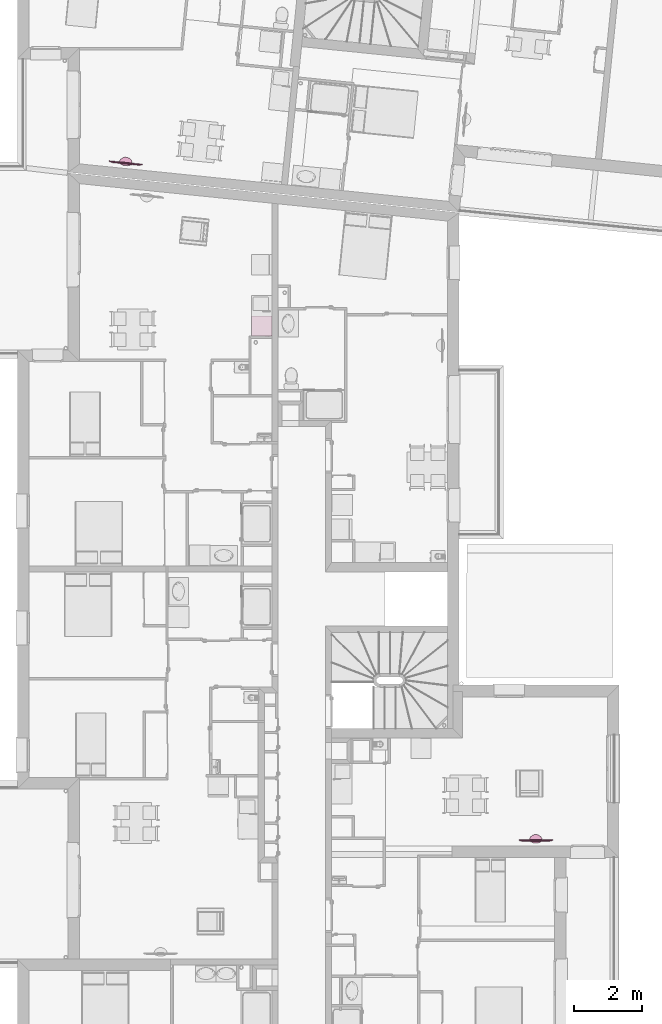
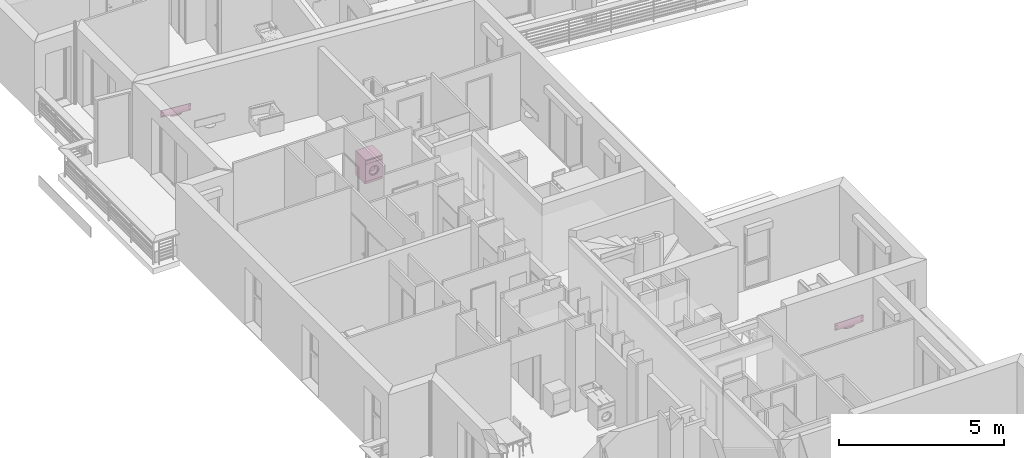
# One storey, part 124 of 164: 3 furnishings.
"""IFC2X3 building model written with IfcOpenShell, lengths in millimetres."""

from ifc_helpers import new_model, entity, si_unit, converted_unit, derived_unit, money_unit, direction, frame, origin_with_axes, place, context, subcontext, project, spatial, open_shell, faceted_brep, surface_model, source, transform, mapped, type_object, element, save


model = new_model("IFC2X3")

# Units and contexts
model_context = context("Model", 3, precision=0.01, world=origin_with_axes(), true_north=direction((0.0, 1.0)))
body_context = subcontext(model_context, "Body", "Model", "MODEL_VIEW")
ifc_project = project(units=[si_unit("LENGTHUNIT", "METRE", prefix="MILLI"), si_unit("AREAUNIT", "SQUARE_METRE"), si_unit("VOLUMEUNIT", "CUBIC_METRE"), converted_unit("PLANEANGLEUNIT", "DEGREE", entity("IfcPlaneAngleMeasure", 0.0174532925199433), si_unit("PLANEANGLEUNIT", "RADIAN"), dimensions=[0, 0, 0, 0, 0, 0, 0]), money_unit("USD"), converted_unit("TIMEUNIT", "Year", entity("IfcTimeMeasure", 31557600.0), si_unit("TIMEUNIT", "SECOND"), dimensions=[0, 0, 1, 0, 0, 0, 0]), si_unit("MASSUNIT", "GRAM", prefix="KILO"), si_unit("THERMODYNAMICTEMPERATUREUNIT", "DEGREE_CELSIUS"), si_unit("LUMINOUSINTENSITYUNIT", "LUMEN"), si_unit("ENERGYUNIT", "JOULE", prefix="MEGA"), derived_unit("THERMALCONDUCTANCEUNIT", [(si_unit("POWERUNIT", "WATT"), 1), (si_unit("LENGTHUNIT", "METRE"), -1), (si_unit("THERMODYNAMICTEMPERATUREUNIT", "KELVIN"), -1)]), derived_unit("SPECIFICHEATCAPACITYUNIT", [(si_unit("ENERGYUNIT", "JOULE"), 1), (si_unit("MASSUNIT", "GRAM", prefix="KILO"), -1), (si_unit("THERMODYNAMICTEMPERATUREUNIT", "KELVIN"), -1)]), derived_unit("MASSDENSITYUNIT", [(si_unit("MASSUNIT", "GRAM", prefix="KILO"), 1), (si_unit("VOLUMEUNIT", "CUBIC_METRE"), -1)])], contexts=[model_context])

# Site, building, storey
site_placement = place(None, origin_with_axes())
site = spatial("IfcSite", under=ifc_project, at=site_placement, Name="Site", CompositionType="ELEMENT")
building_placement = place(site_placement, origin_with_axes())
building = spatial("IfcBuilding", under=site, at=building_placement, Name="Bâtiment", CompositionType="ELEMENT")
storey_placement = place(building_placement, frame((0.0, 0.0, 5750.0), z_axis=(0.0, 0.0, 1.0), x_axis=(1.0, 0.0, 0.0)))
storey = spatial("IfcBuildingStorey", under=building, at=storey_placement, Name="Etage1", CompositionType="ELEMENT", Elevation=5750.0)

# Furnishings
furnishing_element_type_1 = type_object("IfcFurnishingElementType", Name="Machine à laver")
shared_shape_1 = source(origin_with_axes(), body_context, "Body", "SurfaceModel", [
    faceted_brep([(0.0, 20.0, 100.0), (0.0, 0.0, 100.0), (-600.0, 0.0, 100.0), (-600.0, 20.0, 100.0), (0.0, 20.00000000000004, 740.0), (0.0, 0.0, 740.0), (-600.0, 0.0, 740.0), (-471.4285714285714, 0.0, 420.0000000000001), (-465.5872845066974, 0.0, 464.3689791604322), (-448.4614977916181, 0.0, 505.7142857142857), (-421.2183053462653, 0.0, 541.2183053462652), (-385.7142857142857, 0.0, 568.4614977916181), (-344.3689791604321, 0.0, 585.5872845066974), (-300.0000000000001, 0.0, 591.4285714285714), (-255.6310208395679, 0.0, 585.5872845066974), (-214.2857142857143, 0.0, 568.4614977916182), (-178.7816946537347, 0.0, 541.2183053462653), (-151.5385022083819, 0.0, 505.7142857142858), (-134.4127154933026, 0.0, 464.3689791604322), (-128.5714285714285, 0.0, 420.0000000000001), (-134.4127154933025, 0.0, 375.6310208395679), (-151.5385022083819, 0.0, 334.2857142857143), (-178.7816946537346, 0.0, 298.7816946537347), (-214.2857142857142, 0.0, 271.5385022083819), (-255.6310208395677, 0.0, 254.4127154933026), (-299.9999999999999, 0.0, 248.5714285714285), (-344.368979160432, 0.0, 254.4127154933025), (-385.7142857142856, 0.0, 271.5385022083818), (-421.2183053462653, 0.0, 298.7816946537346), (-448.4614977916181, 0.0, 334.2857142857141), (-465.5872845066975, 0.0, 375.6310208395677), (-600.0, 20.00000000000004, 740.0), (-471.4285714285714, 20.00000000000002, 420.0000000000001), (-465.5872845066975, 20.00000000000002, 375.6310208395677), (-448.4614977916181, 20.00000000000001, 334.2857142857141), (-421.2183053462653, 20.00000000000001, 298.7816946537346), (-385.7142857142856, 20.00000000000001, 271.5385022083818), (-344.368979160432, 20.00000000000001, 254.4127154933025), (-299.9999999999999, 20.00000000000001, 248.5714285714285), (-255.6310208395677, 20.00000000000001, 254.4127154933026), (-214.2857142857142, 20.00000000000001, 271.5385022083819), (-178.7816946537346, 20.00000000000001, 298.7816946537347), (-151.5385022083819, 20.00000000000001, 334.2857142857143), (-134.4127154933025, 20.00000000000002, 375.6310208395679), (-128.5714285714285, 20.00000000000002, 420.0000000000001), (-134.4127154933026, 20.00000000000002, 464.3689791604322), (-151.5385022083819, 20.00000000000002, 505.7142857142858), (-178.7816946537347, 20.00000000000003, 541.2183053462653), (-214.2857142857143, 20.00000000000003, 568.4614977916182), (-255.6310208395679, 20.00000000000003, 585.5872845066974), (-300.0000000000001, 20.00000000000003, 591.4285714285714), (-344.3689791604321, 20.00000000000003, 585.5872845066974), (-385.7142857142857, 20.00000000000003, 568.4614977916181), (-421.2183053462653, 20.00000000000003, 541.2183053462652), (-448.4614977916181, 20.00000000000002, 505.7142857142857), (-465.5872845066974, 20.00000000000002, 464.3689791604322)], [[[0, 1, 2, 3]], [[4, 5, 1, 0]], [[1, 5, 6, 2], [7, 8, 9, 10, 11, 12, 13, 14, 15, 16, 17, 18, 19, 20, 21, 22, 23, 24, 25, 26, 27, 28, 29, 30]], [[3, 2, 6, 31]], [[0, 3, 31, 4], [32, 33, 34, 35, 36, 37, 38, 39, 40, 41, 42, 43, 44, 45, 46, 47, 48, 49, 50, 51, 52, 53, 54, 55]], [[31, 6, 5, 4]], [[55, 8, 7, 32]], [[54, 9, 8, 55]], [[53, 10, 9, 54]], [[52, 11, 10, 53]], [[51, 12, 11, 52]], [[50, 13, 12, 51]], [[49, 14, 13, 50]], [[48, 15, 14, 49]], [[47, 16, 15, 48]], [[46, 17, 16, 47]], [[45, 18, 17, 46]], [[44, 19, 18, 45]], [[43, 20, 19, 44]], [[42, 21, 20, 43]], [[41, 22, 21, 42]], [[40, 23, 22, 41]], [[39, 24, 23, 40]], [[38, 25, 24, 39]], [[37, 26, 25, 38]], [[36, 27, 26, 37]], [[35, 28, 27, 36]], [[34, 29, 28, 35]], [[33, 30, 29, 34]], [[32, 7, 30, 33]]]),
    faceted_brep([(-471.4285714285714, 40.00000000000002, 420.0000000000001), (-471.4285714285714, 20.00000000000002, 420.0000000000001), (-465.5872845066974, 20.00000000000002, 464.3689791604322), (-465.5872845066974, 40.00000000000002, 464.3689791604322), (-465.5872845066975, 40.00000000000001, 375.6310208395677), (-465.5872845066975, 20.00000000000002, 375.6310208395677), (-448.4614977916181, 20.00000000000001, 334.2857142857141), (-421.2183053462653, 20.00000000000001, 298.7816946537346), (-385.7142857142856, 20.00000000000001, 271.5385022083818), (-344.368979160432, 20.00000000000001, 254.4127154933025), (-299.9999999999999, 20.00000000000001, 248.5714285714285), (-255.6310208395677, 20.00000000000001, 254.4127154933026), (-214.2857142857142, 20.00000000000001, 271.5385022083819), (-178.7816946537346, 20.00000000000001, 298.7816946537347), (-151.5385022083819, 20.00000000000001, 334.2857142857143), (-134.4127154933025, 20.00000000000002, 375.6310208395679), (-128.5714285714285, 20.00000000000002, 420.0000000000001), (-134.4127154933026, 20.00000000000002, 464.3689791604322), (-151.5385022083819, 20.00000000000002, 505.7142857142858), (-178.7816946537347, 20.00000000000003, 541.2183053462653), (-214.2857142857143, 20.00000000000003, 568.4614977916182), (-255.6310208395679, 20.00000000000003, 585.5872845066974), (-300.0000000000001, 20.00000000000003, 591.4285714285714), (-344.3689791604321, 20.00000000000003, 585.5872845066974), (-385.7142857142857, 20.00000000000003, 568.4614977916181), (-421.2183053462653, 20.00000000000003, 541.2183053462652), (-448.4614977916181, 20.00000000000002, 505.7142857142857), (-437.1428571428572, 20.00000000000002, 420.0000000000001), (-432.469827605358, 20.00000000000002, 455.4951833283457), (-418.7691982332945, 20.00000000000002, 488.5714285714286), (-396.9746442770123, 20.00000000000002, 516.9746442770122), (-368.5714285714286, 20.00000000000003, 538.7691982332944), (-335.4951833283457, 20.00000000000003, 552.469827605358), (-300.0000000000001, 20.00000000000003, 557.1428571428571), (-264.5048166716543, 20.00000000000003, 552.469827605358), (-231.4285714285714, 20.00000000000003, 538.7691982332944), (-203.0253557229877, 20.00000000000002, 516.9746442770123), (-181.2308017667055, 20.00000000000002, 488.5714285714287), (-167.530172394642, 20.00000000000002, 455.4951833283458), (-162.8571428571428, 20.00000000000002, 420.0000000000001), (-167.530172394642, 20.00000000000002, 384.5048166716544), (-181.2308017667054, 20.00000000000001, 351.4285714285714), (-203.0253557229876, 20.00000000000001, 323.0253557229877), (-231.4285714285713, 20.00000000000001, 301.2308017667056), (-264.5048166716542, 20.00000000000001, 287.530172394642), (-299.9999999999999, 20.00000000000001, 282.8571428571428), (-335.4951833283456, 20.00000000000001, 287.530172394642), (-368.5714285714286, 20.00000000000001, 301.2308017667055), (-396.9746442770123, 20.00000000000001, 323.0253557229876), (-418.7691982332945, 20.00000000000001, 351.4285714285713), (-432.469827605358, 20.00000000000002, 384.5048166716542), (-448.4614977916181, 40.00000000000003, 505.7142857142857), (-421.2183053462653, 40.00000000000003, 541.2183053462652), (-385.7142857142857, 40.00000000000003, 568.4614977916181), (-344.3689791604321, 40.00000000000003, 585.5872845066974), (-300.0000000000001, 40.00000000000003, 591.4285714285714), (-255.6310208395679, 40.00000000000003, 585.5872845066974), (-214.2857142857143, 40.00000000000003, 568.4614977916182), (-178.7816946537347, 40.00000000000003, 541.2183053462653), (-151.5385022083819, 40.00000000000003, 505.7142857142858), (-134.4127154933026, 40.00000000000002, 464.3689791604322), (-128.5714285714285, 40.00000000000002, 420.0000000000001), (-134.4127154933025, 40.00000000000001, 375.6310208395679), (-151.5385022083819, 40.00000000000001, 334.2857142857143), (-178.7816946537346, 40.00000000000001, 298.7816946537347), (-214.2857142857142, 40.00000000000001, 271.5385022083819), (-255.6310208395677, 40.00000000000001, 254.4127154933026), (-299.9999999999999, 40.00000000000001, 248.5714285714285), (-344.368979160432, 40.00000000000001, 254.4127154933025), (-385.7142857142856, 40.00000000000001, 271.5385022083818), (-421.2183053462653, 40.00000000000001, 298.7816946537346), (-448.4614977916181, 40.00000000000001, 334.2857142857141), (-437.1428571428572, 40.00000000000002, 420.0000000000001), (-432.469827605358, 40.00000000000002, 384.5048166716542), (-418.7691982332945, 40.00000000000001, 351.4285714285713), (-396.9746442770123, 40.00000000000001, 323.0253557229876), (-368.5714285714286, 40.00000000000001, 301.2308017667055), (-335.4951833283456, 40.00000000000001, 287.530172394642), (-299.9999999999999, 40.00000000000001, 282.8571428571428), (-264.5048166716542, 40.00000000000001, 287.530172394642), (-231.4285714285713, 40.00000000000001, 301.2308017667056), (-203.0253557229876, 40.00000000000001, 323.0253557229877), (-181.2308017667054, 40.00000000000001, 351.4285714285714), (-167.530172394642, 40.00000000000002, 384.5048166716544), (-162.8571428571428, 40.00000000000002, 420.0000000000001), (-167.530172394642, 40.00000000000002, 455.4951833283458), (-181.2308017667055, 40.00000000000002, 488.5714285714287), (-203.0253557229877, 40.00000000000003, 516.9746442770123), (-231.4285714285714, 40.00000000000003, 538.7691982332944), (-264.5048166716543, 40.00000000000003, 552.469827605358), (-300.0000000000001, 40.00000000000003, 557.1428571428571), (-335.4951833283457, 40.00000000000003, 552.469827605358), (-368.5714285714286, 40.00000000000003, 538.7691982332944), (-396.9746442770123, 40.00000000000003, 516.9746442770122), (-418.7691982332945, 40.00000000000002, 488.5714285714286), (-432.469827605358, 40.00000000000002, 455.4951833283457)], [[[0, 1, 2, 3]], [[4, 5, 1, 0]], [[1, 5, 6, 7, 8, 9, 10, 11, 12, 13, 14, 15, 16, 17, 18, 19, 20, 21, 22, 23, 24, 25, 26, 2], [27, 28, 29, 30, 31, 32, 33, 34, 35, 36, 37, 38, 39, 40, 41, 42, 43, 44, 45, 46, 47, 48, 49, 50]], [[3, 2, 26, 51]], [[0, 3, 51, 52, 53, 54, 55, 56, 57, 58, 59, 60, 61, 62, 63, 64, 65, 66, 67, 68, 69, 70, 71, 4], [72, 73, 74, 75, 76, 77, 78, 79, 80, 81, 82, 83, 84, 85, 86, 87, 88, 89, 90, 91, 92, 93, 94, 95]], [[71, 6, 5, 4]], [[70, 7, 6, 71]], [[69, 8, 7, 70]], [[68, 9, 8, 69]], [[67, 10, 9, 68]], [[66, 11, 10, 67]], [[65, 12, 11, 66]], [[64, 13, 12, 65]], [[63, 14, 13, 64]], [[62, 15, 14, 63]], [[61, 16, 15, 62]], [[60, 17, 16, 61]], [[59, 18, 17, 60]], [[58, 19, 18, 59]], [[57, 20, 19, 58]], [[56, 21, 20, 57]], [[55, 22, 21, 56]], [[54, 23, 22, 55]], [[53, 24, 23, 54]], [[52, 25, 24, 53]], [[51, 26, 25, 52]], [[95, 28, 27, 72]], [[94, 29, 28, 95]], [[93, 30, 29, 94]], [[92, 31, 30, 93]], [[91, 32, 31, 92]], [[90, 33, 32, 91]], [[89, 34, 33, 90]], [[88, 35, 34, 89]], [[87, 36, 35, 88]], [[86, 37, 36, 87]], [[85, 38, 37, 86]], [[84, 39, 38, 85]], [[83, 40, 39, 84]], [[82, 41, 40, 83]], [[81, 42, 41, 82]], [[80, 43, 42, 81]], [[79, 44, 43, 80]], [[78, 45, 44, 79]], [[77, 46, 45, 78]], [[76, 47, 46, 77]], [[75, 48, 47, 76]], [[74, 49, 48, 75]], [[73, 50, 49, 74]], [[72, 27, 50, 73]]]),
    surface_model("IfcShellBasedSurfaceModel", [(-264.5048166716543, 39.99999999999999, 552.469827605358), (-273.3786125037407, 140.0, 519.3523707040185), (-300.0, 140.0, 522.8571428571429), (-300.0, 39.99999999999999, 557.1428571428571), (-231.4285714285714, 39.99999999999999, 538.7691982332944), (-248.5714285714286, 140.0, 509.0768986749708), (-227.2690167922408, 140.0, 492.7309832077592), (-210.9231013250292, 140.0, 471.4285714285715), (-200.6476292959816, 140.0, 446.6213874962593), (-197.1428571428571, 140.0, 420.0000000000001), (-200.6476292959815, 140.0, 393.3786125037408), (-210.9231013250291, 140.0, 368.5714285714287), (-227.2690167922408, 140.0, 347.2690167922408), (-248.5714285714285, 140.0, 330.9231013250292), (-273.3786125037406, 140.0, 320.6476292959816), (-299.9999999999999, 140.0, 317.1428571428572), (-326.6213874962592, 140.0, 320.6476292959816), (-351.4285714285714, 140.0, 330.9231013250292), (-372.7309832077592, 140.0, 347.2690167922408), (-389.0768986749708, 140.0, 368.5714285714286), (-399.3523707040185, 140.0, 393.3786125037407), (-402.8571428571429, 140.0, 420.0), (-399.3523707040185, 140.0, 446.6213874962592), (-389.0768986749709, 140.0, 471.4285714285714), (-372.7309832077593, 140.0, 492.7309832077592), (-351.4285714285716, 140.0, 509.0768986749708), (-326.6213874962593, 140.0, 519.3523707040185), (-335.4951833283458, 39.99999999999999, 552.469827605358), (-203.0253557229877, 39.99999999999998, 516.9746442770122), (-181.2308017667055, 39.99999999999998, 488.5714285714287), (-167.5301723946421, 39.99999999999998, 455.4951833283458), (-162.8571428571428, 39.99999999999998, 420.0000000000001), (-167.530172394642, 39.99999999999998, 384.5048166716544), (-181.2308017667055, 39.99999999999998, 351.4285714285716), (-203.0253557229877, 39.99999999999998, 323.0253557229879), (-231.4285714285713, 39.99999999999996, 301.2308017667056), (-264.5048166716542, 39.99999999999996, 287.5301723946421), (-299.9999999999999, 39.99999999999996, 282.8571428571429), (-335.4951833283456, 39.99999999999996, 287.5301723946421), (-368.5714285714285, 39.99999999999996, 301.2308017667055), (-396.9746442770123, 39.99999999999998, 323.0253557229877), (-418.7691982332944, 39.99999999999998, 351.4285714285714), (-432.469827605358, 39.99999999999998, 384.5048166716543), (-437.1428571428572, 39.99999999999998, 419.9999999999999), (-432.469827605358, 39.99999999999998, 455.4951833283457), (-418.7691982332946, 39.99999999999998, 488.5714285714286), (-396.9746442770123, 39.99999999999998, 516.9746442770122), (-368.5714285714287, 39.99999999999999, 538.7691982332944)], [open_shell([[[0, 1, 2, 3]], [[4, 5, 1, 0]], [[2, 1, 5, 6, 7, 8, 9, 10, 11, 12, 13, 14, 15, 16, 17, 18, 19, 20, 21, 22, 23, 24, 25, 26]], [[3, 2, 26, 27]], [[28, 6, 5, 4]], [[29, 7, 6, 28]], [[30, 8, 7, 29]], [[31, 9, 8, 30]], [[32, 10, 9, 31]], [[33, 11, 10, 32]], [[34, 12, 11, 33]], [[35, 13, 12, 34]], [[36, 14, 13, 35]], [[37, 15, 14, 36]], [[38, 16, 15, 37]], [[39, 17, 16, 38]], [[40, 18, 17, 39]], [[41, 19, 18, 40]], [[42, 20, 19, 41]], [[43, 21, 20, 42]], [[44, 22, 21, 43]], [[45, 23, 22, 44]], [[46, 24, 23, 45]], [[47, 25, 24, 46]], [[27, 26, 25, 47]]])]),
    surface_model("IfcShellBasedSurfaceModel", [(0.0, 20.0, 100.0), (0.0, 600.0, 99.99999999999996), (0.0, 600.0, 870.0), (0.0, 20.00000000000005, 870.0)], [open_shell([[[0, 1, 2, 3]]])]),
    surface_model("IfcShellBasedSurfaceModel", [(-600.0, 19.99999999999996, 100.0), (-600.0, 599.9999999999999, 99.99999999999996), (-600.0, 599.9999999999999, 870.0), (-600.0, 20.00000000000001, 870.0)], [open_shell([[[0, 1, 2, 3]]])]),
    surface_model("IfcShellBasedSurfaceModel", [(0.0, 600.0, 100.0), (-600.0, 600.0, 100.0), (-600.0, 600.0, 870.0), (0.0, 600.0, 870.0)], [open_shell([[[0, 1, 2, 3]]])]),
    faceted_brep([(0.0, 20.0, 0.0), (0.0, 20.0, 100.0), (-600.0, 20.0, 100.0), (-600.0, 20.0, 0.0), (0.0, 600.0, 0.0), (0.0, 600.0, 100.0), (-600.0, 600.0, 100.0), (-600.0, 600.0, 0.0)], [[[0, 1, 2, 3]], [[4, 5, 1, 0]], [[1, 5, 6, 2]], [[3, 2, 6, 7]], [[0, 3, 7, 4]], [[7, 6, 5, 4]]]),
    faceted_brep([(0.0, 20.0, 750.0), (0.0, 0.0, 750.0), (-600.0, 0.0, 750.0), (-600.0, 20.0, 750.0), (0.0, 20.00000000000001, 860.0), (0.0, 0.0, 860.0), (-600.0, 0.0, 860.0), (-600.0, 20.00000000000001, 860.0)], [[[0, 1, 2, 3]], [[4, 5, 1, 0]], [[1, 5, 6, 2]], [[3, 2, 6, 7]], [[0, 3, 7, 4]], [[7, 6, 5, 4]]]),
    surface_model("IfcShellBasedSurfaceModel", [(0.0, 20.0, 740.0), (-600.0, 20.0, 740.0), (-600.0, 20.00000000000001, 870.0), (0.0, 20.00000000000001, 870.0)], [open_shell([[[0, 1, 2, 3]]])]),
    faceted_brep([(0.0, 0.0, 870.0), (0.0, 0.0, 900.0), (-600.0, 0.0, 900.0), (-600.0, 0.0, 870.0), (0.0, 600.0, 870.0), (0.0, 600.0, 900.0), (-600.0, 600.0, 900.0), (-600.0, 600.0, 870.0)], [[[0, 1, 2, 3]], [[4, 5, 1, 0]], [[1, 5, 6, 2]], [[3, 2, 6, 7]], [[0, 3, 7, 4]], [[7, 6, 5, 4]]]),
    faceted_brep([(-68.66025403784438, 0.0, 804.9999999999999), (-69.99999999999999, 0.0, 809.9999999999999), (-68.66025403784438, 0.0, 815.0), (-65.0, 0.0, 818.6602540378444), (-60.0, 0.0, 820.0), (-55.0, 0.0, 818.6602540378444), (-51.33974596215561, 0.0, 815.0), (-49.99999999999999, 0.0, 809.9999999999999), (-51.33974596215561, 0.0, 804.9999999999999), (-54.99999999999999, 0.0, 801.3397459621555), (-59.99999999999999, 0.0, 799.9999999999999), (-64.99999999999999, 0.0, 801.3397459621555), (-68.66025403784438, -10.0, 804.9999999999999), (-69.99999999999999, -10.0, 809.9999999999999), (-68.66025403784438, -10.0, 815.0), (-65.0, -10.0, 818.6602540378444), (-60.0, -10.0, 820.0), (-55.0, -10.0, 818.6602540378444), (-51.33974596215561, -10.0, 815.0), (-49.99999999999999, -10.0, 809.9999999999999), (-51.33974596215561, -10.0, 804.9999999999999), (-54.99999999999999, -10.0, 801.3397459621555), (-59.99999999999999, -10.0, 799.9999999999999), (-64.99999999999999, -10.0, 801.3397459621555)], [[[0, 1, 2, 3, 4, 5, 6, 7, 8, 9, 10, 11]], [[0, 12, 13, 1]], [[1, 13, 14, 2]], [[2, 14, 15, 3]], [[3, 15, 16, 4]], [[4, 16, 17, 5]], [[5, 17, 18, 6]], [[6, 18, 19, 7]], [[7, 19, 20, 8]], [[8, 20, 21, 9]], [[9, 21, 22, 10]], [[10, 22, 23, 11]], [[11, 23, 12, 0]], [[12, 23, 22, 21, 20, 19, 18, 17, 16, 15, 14, 13]]]),
    faceted_brep([(-108.6602540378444, 0.0, 804.9999999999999), (-110.0, 0.0, 809.9999999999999), (-108.6602540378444, 0.0, 815.0), (-105.0, 0.0, 818.6602540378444), (-100.0, 0.0, 820.0), (-95.0, 0.0, 818.6602540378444), (-91.33974596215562, 0.0, 815.0), (-90.00000000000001, 0.0, 809.9999999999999), (-91.33974596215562, 0.0, 804.9999999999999), (-95.0, 0.0, 801.3397459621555), (-99.99999999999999, 0.0, 799.9999999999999), (-105.0, 0.0, 801.3397459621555), (-108.6602540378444, -10.0, 804.9999999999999), (-110.0, -10.0, 809.9999999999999), (-108.6602540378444, -10.0, 815.0), (-105.0, -10.0, 818.6602540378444), (-100.0, -10.0, 820.0), (-95.0, -10.0, 818.6602540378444), (-91.33974596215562, -10.0, 815.0), (-90.00000000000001, -10.0, 809.9999999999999), (-91.33974596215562, -10.0, 804.9999999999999), (-95.0, -10.0, 801.3397459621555), (-99.99999999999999, -10.0, 799.9999999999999), (-105.0, -10.0, 801.3397459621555)], [[[0, 1, 2, 3, 4, 5, 6, 7, 8, 9, 10, 11]], [[0, 12, 13, 1]], [[1, 13, 14, 2]], [[2, 14, 15, 3]], [[3, 15, 16, 4]], [[4, 16, 17, 5]], [[5, 17, 18, 6]], [[6, 18, 19, 7]], [[7, 19, 20, 8]], [[8, 20, 21, 9]], [[9, 21, 22, 10]], [[10, 22, 23, 11]], [[11, 23, 12, 0]], [[12, 23, 22, 21, 20, 19, 18, 17, 16, 15, 14, 13]]]),
    faceted_brep([(-148.6602540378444, 0.0, 804.9999999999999), (-150.0, 0.0, 809.9999999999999), (-148.6602540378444, 0.0, 815.0), (-145.0, 0.0, 818.6602540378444), (-140.0, 0.0, 820.0), (-135.0, 0.0, 818.6602540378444), (-131.3397459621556, 0.0, 815.0), (-130.0, 0.0, 809.9999999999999), (-131.3397459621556, 0.0, 804.9999999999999), (-135.0, 0.0, 801.3397459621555), (-140.0, 0.0, 799.9999999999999), (-145.0, 0.0, 801.3397459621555), (-148.6602540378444, -10.0, 804.9999999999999), (-150.0, -10.0, 809.9999999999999), (-148.6602540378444, -10.0, 815.0), (-145.0, -10.0, 818.6602540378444), (-140.0, -10.0, 820.0), (-135.0, -10.0, 818.6602540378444), (-131.3397459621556, -10.0, 815.0), (-130.0, -10.0, 809.9999999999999), (-131.3397459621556, -10.0, 804.9999999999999), (-135.0, -10.0, 801.3397459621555), (-140.0, -10.0, 799.9999999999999), (-145.0, -10.0, 801.3397459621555)], [[[0, 1, 2, 3, 4, 5, 6, 7, 8, 9, 10, 11]], [[0, 12, 13, 1]], [[1, 13, 14, 2]], [[2, 14, 15, 3]], [[3, 15, 16, 4]], [[4, 16, 17, 5]], [[5, 17, 18, 6]], [[6, 18, 19, 7]], [[7, 19, 20, 8]], [[8, 20, 21, 9]], [[9, 21, 22, 10]], [[10, 22, 23, 11]], [[11, 23, 12, 0]], [[12, 23, 22, 21, 20, 19, 18, 17, 16, 15, 14, 13]]]),
    faceted_brep([(-188.6602540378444, 0.0, 804.9999999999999), (-190.0, 0.0, 809.9999999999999), (-188.6602540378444, 0.0, 815.0), (-185.0, 0.0, 818.6602540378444), (-180.0, 0.0, 820.0), (-175.0, 0.0, 818.6602540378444), (-171.3397459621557, 0.0, 815.0), (-170.0, 0.0, 809.9999999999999), (-171.3397459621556, 0.0, 804.9999999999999), (-175.0, 0.0, 801.3397459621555), (-180.0, 0.0, 799.9999999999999), (-185.0, 0.0, 801.3397459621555), (-188.6602540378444, -10.0, 804.9999999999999), (-190.0, -10.0, 809.9999999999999), (-188.6602540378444, -10.0, 815.0), (-185.0, -10.0, 818.6602540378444), (-180.0, -10.0, 820.0), (-175.0, -10.0, 818.6602540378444), (-171.3397459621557, -10.0, 815.0), (-170.0, -10.0, 809.9999999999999), (-171.3397459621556, -10.0, 804.9999999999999), (-175.0, -10.0, 801.3397459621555), (-180.0, -10.0, 799.9999999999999), (-185.0, -10.0, 801.3397459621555)], [[[0, 1, 2, 3, 4, 5, 6, 7, 8, 9, 10, 11]], [[0, 12, 13, 1]], [[1, 13, 14, 2]], [[2, 14, 15, 3]], [[3, 15, 16, 4]], [[4, 16, 17, 5]], [[5, 17, 18, 6]], [[6, 18, 19, 7]], [[7, 19, 20, 8]], [[8, 20, 21, 9]], [[9, 21, 22, 10]], [[10, 22, 23, 11]], [[11, 23, 12, 0]], [[12, 23, 22, 21, 20, 19, 18, 17, 16, 15, 14, 13]]]),
])
furnishing_placement = place(storey_placement, frame((2224132.822888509, -625671.2207779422, 0.0), z_axis=(0.0, 0.0, 1.0), x_axis=(0.9999996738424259, 0.0008076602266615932, 0.0)))
element("IfcFurnishingElement", 1, at=furnishing_placement, inside=storey, type_object=furnishing_element_type_1, Name="Obj.-019", context=body_context, shape_type="MappedRepresentation", body=[
    mapped(shared_shape_1, transform((0.0, 0.0, 0.0))),
])
furnishing_element_type_2 = type_object("IfcFurnishingElementType", Name="Ecran TV plasma")
shared_shape_2 = source(origin_with_axes(), body_context, "Body", "Brep", [
    faceted_brep([(-300.0, 45.45454545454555, 0.0), (-300.0, 45.45454545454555, 12.72727272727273), (-311.9952377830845, -22.76722074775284, 12.72727272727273), (-311.9952377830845, -22.76722074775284, 0.0), (-300.362869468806, 45.66379498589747, 0.0), (-300.362869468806, 45.66379498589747, 12.72727272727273), (-430.8157560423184, 93.01588086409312, 12.72727272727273), (-569.5967719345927, 92.94321528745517, 12.72727272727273), (-700.0000000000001, 45.45454545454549, 12.72727272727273), (-699.9923846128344, 43.70923835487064, 12.72727272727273), (-687.402263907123, -24.40525330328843, 12.72727272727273), (-652.3327960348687, -84.13989598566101, 12.72727272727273), (-598.9906470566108, -128.3293772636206, 12.72727272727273), (-533.7743345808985, -151.6730637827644, 12.72727272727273), (-464.5067103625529, -151.3708248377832, 12.72727272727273), (-399.4965906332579, -127.4589147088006, 12.72727272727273), (-346.5420938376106, -82.80562387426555, 12.72727272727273), (-346.5420938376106, -82.80562387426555, 0.0), (-399.4965906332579, -127.4589147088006, 0.0), (-464.5067103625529, -151.3708248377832, 0.0), (-533.7743345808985, -151.6730637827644, 0.0), (-598.9906470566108, -128.3293772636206, 0.0), (-652.3327960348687, -84.13989598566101, 0.0), (-687.402263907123, -24.40525330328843, 0.0), (-699.9923846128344, 43.70923835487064, 0.0), (-700.0000000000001, 45.45454545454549, 0.0), (-569.5967719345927, 92.94321528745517, 0.0), (-430.8157560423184, 93.01588086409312, 0.0)], [[[0, 1, 2, 3]], [[4, 5, 1, 0]], [[1, 5, 6, 7, 8, 9, 10, 11, 12, 13, 14, 15, 16, 2]], [[3, 2, 16, 17]], [[0, 3, 17, 18, 19, 20, 21, 22, 23, 24, 25, 26, 27, 4]], [[27, 6, 5, 4]], [[26, 7, 6, 27]], [[25, 8, 7, 26]], [[24, 9, 8, 25]], [[23, 10, 9, 24]], [[22, 11, 10, 23]], [[21, 12, 11, 22]], [[20, 13, 12, 21]], [[19, 14, 13, 20]], [[18, 15, 14, 19]], [[17, 16, 15, 18]]]),
    faceted_brep([(-666.6666666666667, 2.500000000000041, 12.72727272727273), (-666.6666666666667, 2.500000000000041, 25.45454545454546), (-666.6666666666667, 22.50000000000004, 25.45454545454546), (-666.6666666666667, 22.50000000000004, 12.72727272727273), (-333.3333333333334, 2.500000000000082, 12.72727272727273), (-333.3333333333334, 2.500000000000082, 25.45454545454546), (-333.3333333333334, 22.50000000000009, 25.45454545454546), (-333.3333333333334, 22.50000000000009, 12.72727272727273)], [[[0, 1, 2, 3]], [[4, 5, 1, 0]], [[1, 5, 6, 2]], [[3, 2, 6, 7]], [[0, 3, 7, 4]], [[7, 6, 5, 4]]]),
    faceted_brep([(-62.5, -0.2539999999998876, 65.45454545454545), (-62.5, 0.0, 65.45454545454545), (-62.5, 0.0, 254.5454545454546), (-62.5, -0.2539999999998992, 254.5454545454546), (-937.5, -0.2539999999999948, 65.45454545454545), (-937.5, 0.0, 65.45454545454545), (-937.5, 0.0, 254.5454545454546), (-937.5, -0.2540000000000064, 254.5454545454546)], [[[0, 1, 2, 3]], [[4, 5, 1, 0]], [[1, 5, 6, 2]], [[3, 2, 6, 7]], [[0, 3, 7, 4]], [[7, 6, 5, 4]]]),
    faceted_brep([(-937.5, 0.0, 25.45454545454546), (-62.5, 0.0, 25.45454545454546), (0.0, 0.0, 31.81818181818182), (0.0, 0.0, 280.0), (-1000.0, 0.0, 280.0), (-1000.0, 0.0, 31.81818181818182), (-937.5000003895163, 25.00000000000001, 25.4545450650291), (-62.50000038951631, 25.00000000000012, 25.4545450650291), (-3.895163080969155e-07, 25.00000000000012, 31.81818187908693), (-3.895163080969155e-07, 25.00000000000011, 279.9999999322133), (-1000.000000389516, 24.99999999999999, 279.9999999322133), (-1000.000000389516, 25.0, 31.81818187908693), (-934.156616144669, 42.64268163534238, 91.29792930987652), (-906.6987288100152, 50.00000037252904, 118.7558166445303), (-93.30127196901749, 50.00000037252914, 118.7558166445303), (-65.84338463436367, 42.64268163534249, 91.29792930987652), (-93.30127196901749, 50.00000037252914, 186.6987283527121), (-906.6987288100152, 50.00000037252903, 186.6987283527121)], [[[0, 1, 2, 3, 4, 5]], [[0, 6, 7, 1]], [[1, 7, 8, 2]], [[2, 8, 9, 3]], [[3, 9, 10, 4]], [[4, 10, 11, 5]], [[5, 11, 6, 0]], [[6, 12, 13, 14, 15, 7]], [[7, 15, 8]], [[8, 15, 14, 16, 9]], [[9, 16, 17, 10]], [[10, 17, 13, 12, 11]], [[11, 12, 6]], [[17, 16, 14, 13]]]),
    faceted_brep([(-500.0, -0.7937499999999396, 39.45454545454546), (-500.0, 0.0, 39.45454545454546), (-490.0, 0.0, 46.45454545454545), (-490.0, -0.7937499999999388, 46.45454545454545), (-510.0, -0.7937499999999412, 46.45454545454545), (-510.0, 0.0, 46.45454545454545), (-600.0, 0.0, 52.18181818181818), (-400.0, 0.0, 52.18181818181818), (-400.0, -0.7937499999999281, 52.18181818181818), (-600.0, -0.7937499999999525, 52.18181818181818)], [[[0, 1, 2, 3]], [[4, 5, 1, 0]], [[1, 5, 6, 7, 2]], [[3, 2, 7, 8]], [[0, 3, 8, 9, 4]], [[9, 6, 5, 4]], [[8, 7, 6, 9]]]),
    faceted_brep([(-866.6666666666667, 10.0, 280.0), (-866.6666666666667, 10.0, 281.5875), (-933.3333333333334, 9.999999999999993, 281.5875), (-933.3333333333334, 9.999999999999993, 280.0), (-866.6666666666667, 16.25, 280.0), (-866.6666666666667, 16.25, 281.5875), (-933.3333333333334, 16.24999999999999, 281.5875), (-933.3333333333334, 16.24999999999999, 280.0)], [[[0, 1, 2, 3]], [[0, 4, 5, 1]], [[1, 5, 6, 2]], [[2, 6, 7, 3]], [[3, 7, 4, 0]], [[7, 6, 5, 4]]]),
    faceted_brep([(-795.2380952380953, 10.00000000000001, 280.0), (-795.2380952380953, 10.00000000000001, 281.5875), (-861.9047619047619, 10.0, 281.5875), (-861.9047619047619, 10.0, 280.0), (-795.2380952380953, 16.25000000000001, 280.0), (-795.2380952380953, 16.25000000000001, 281.5875), (-861.9047619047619, 16.25, 281.5875), (-861.9047619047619, 16.25, 280.0)], [[[0, 1, 2, 3]], [[0, 4, 5, 1]], [[1, 5, 6, 2]], [[2, 6, 7, 3]], [[3, 7, 4, 0]], [[7, 6, 5, 4]]]),
    faceted_brep([(-757.1428571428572, 10.00000000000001, 280.0), (-757.1428571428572, 10.00000000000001, 281.5875), (-790.4761904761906, 10.00000000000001, 281.5875), (-790.4761904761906, 10.00000000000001, 280.0), (-757.1428571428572, 16.25000000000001, 280.0), (-757.1428571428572, 16.25000000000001, 281.5875), (-790.4761904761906, 16.25000000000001, 281.5875), (-790.4761904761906, 16.25000000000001, 280.0)], [[[0, 1, 2, 3]], [[0, 4, 5, 1]], [[1, 5, 6, 2]], [[2, 6, 7, 3]], [[3, 7, 4, 0]], [[7, 6, 5, 4]]]),
])
for number, where, z_axis, x_axis, name in (
    (2, (2231409.53549635, -640503.5620693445, 800.0000000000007), (0.0, 0.0, 1.0), (-0.999999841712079, 0.0005626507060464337, 0.0), "Obj.-034"),
    (3, (2219333.128976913, -620499.4906447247, 800.0000000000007), (0.0, 0.0, 1.0), (-0.9948188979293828, 0.1016629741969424, 0.0), "Obj.-034"),
):
    element("IfcFurnishingElement", number, at=place(storey_placement, frame(where, z_axis=z_axis, x_axis=x_axis)), inside=storey, type_object=furnishing_element_type_2, Name=name, context=body_context, shape_type="MappedRepresentation", body=[
        mapped(shared_shape_2, transform((0.0, 0.0, 0.0))),
    ])

save(model, "model.ifc")
